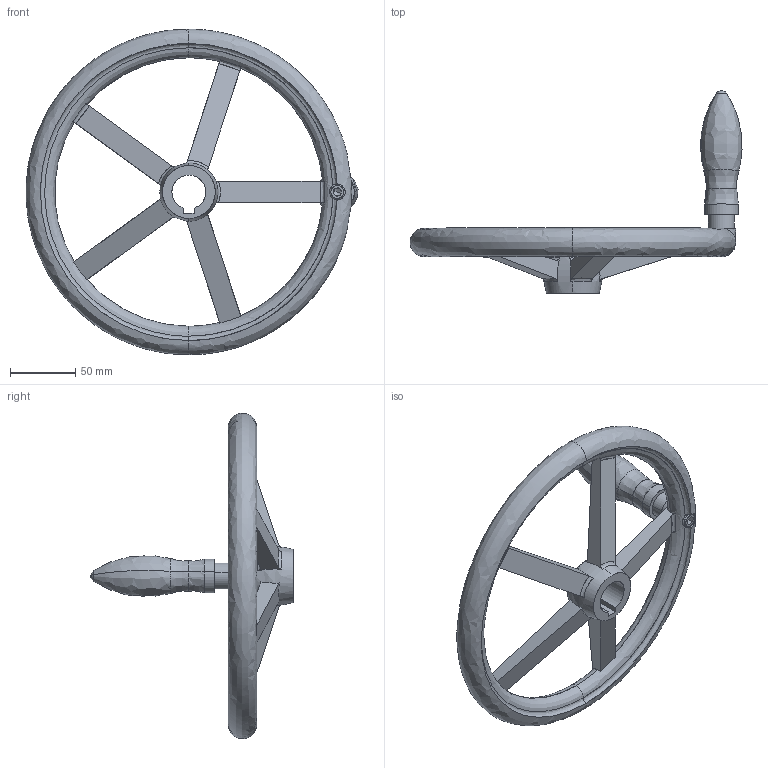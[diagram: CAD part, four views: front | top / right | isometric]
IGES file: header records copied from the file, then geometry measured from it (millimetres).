
Start section: SolidWorks IGES file using analytic representation for surfaces
Global section: file name: C:\Users\IanO\Desktop\Temp File\Process pending\77120_v2\77120_v2_20171108_IGES\77120.W0341.igs; native system: SolidWorks 2017; preprocessor: SolidWorks 2017; author: IanO; date: 171108.084605; units: millimetre
Bounding box: 254.83 x 155.5 x 250 mm (x, y, z)
Surface area: 97756.7 mm2 (no closed solid volume)
Topology: 0 solids, 0 shells, 154 faces, 2113 edges, 2104 vertices
Faces by surface type: bspline 85, revolution 69
